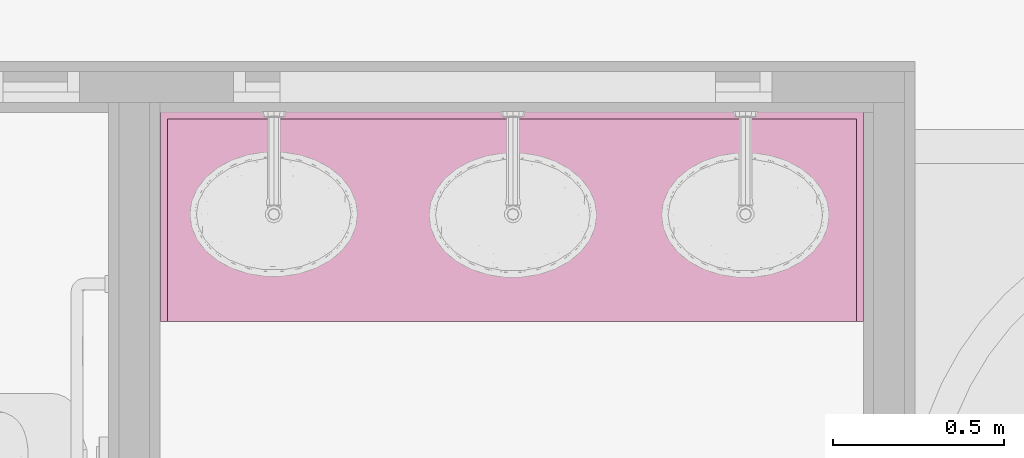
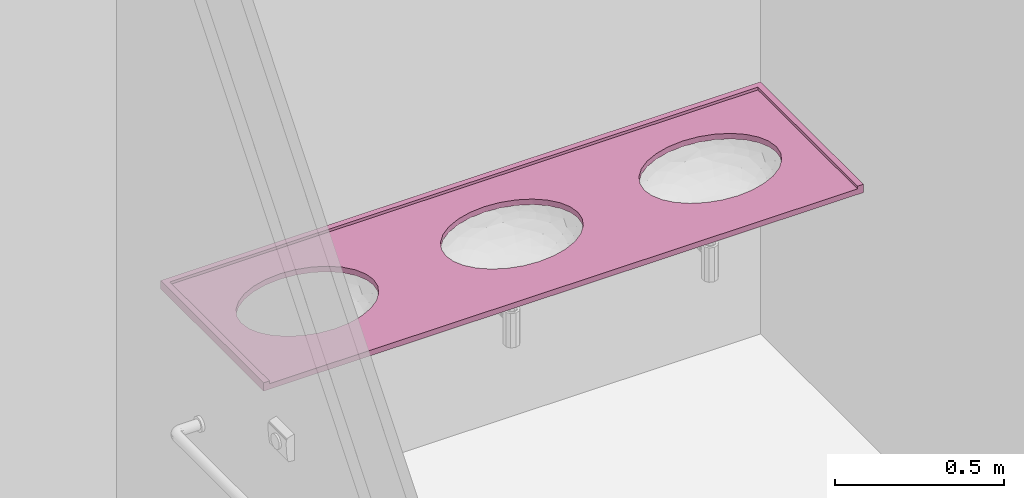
# One storey, part 142 of 155: 1 furnishing.
"""IFC2X3 building model written with IfcOpenShell, lengths in metres."""

from ifc_helpers import new_model, entity, si_unit, converted_unit, derived_unit, direction, frame, frame_2d, origin, origin_2d_with_axis, place, context, subcontext, project, spatial, polyline, rectangle, outline, extrude, source, transform, mapped, type_object, type_shapes, element, save


model = new_model("IFC2X3")

# Units and contexts
model_context = context("Model", 3, precision=1e-05, world=origin(), true_north=direction((6.12303176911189e-17, 1.0)))
body_context = subcontext(model_context, "Body", "Model", "MODEL_VIEW")
ifc_project = project(units=[si_unit("LENGTHUNIT", "METRE"), si_unit("AREAUNIT", "SQUARE_METRE"), si_unit("VOLUMEUNIT", "CUBIC_METRE"), converted_unit("PLANEANGLEUNIT", "DEGREE", entity("IfcRatioMeasure", 0.0174532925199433), si_unit("PLANEANGLEUNIT", "RADIAN"), dimensions=[0, 0, 0, 0, 0, 0, 0]), si_unit("MASSUNIT", "GRAM", prefix="KILO"), derived_unit("MASSDENSITYUNIT", [(si_unit("MASSUNIT", "GRAM", prefix="KILO"), 1), (si_unit("LENGTHUNIT", "METRE"), -3)]), si_unit("TIMEUNIT", "SECOND"), si_unit("FREQUENCYUNIT", "HERTZ"), si_unit("THERMODYNAMICTEMPERATUREUNIT", "DEGREE_CELSIUS"), derived_unit("THERMALTRANSMITTANCEUNIT", [(si_unit("MASSUNIT", "GRAM", prefix="KILO"), 1), (si_unit("THERMODYNAMICTEMPERATUREUNIT", "KELVIN"), -1), (si_unit("TIMEUNIT", "SECOND"), -3)]), derived_unit("VOLUMETRICFLOWRATEUNIT", [(si_unit("LENGTHUNIT", "METRE"), 3), (si_unit("TIMEUNIT", "SECOND"), -1)]), si_unit("ELECTRICCURRENTUNIT", "AMPERE"), si_unit("ELECTRICVOLTAGEUNIT", "VOLT"), si_unit("POWERUNIT", "WATT"), si_unit("FORCEUNIT", "NEWTON", prefix="KILO"), si_unit("ILLUMINANCEUNIT", "LUX"), si_unit("LUMINOUSFLUXUNIT", "LUMEN"), si_unit("LUMINOUSINTENSITYUNIT", "CANDELA"), derived_unit("USERDEFINED", [(si_unit("MASSUNIT", "GRAM", prefix="KILO"), -1), (si_unit("LENGTHUNIT", "METRE"), -2), (si_unit("TIMEUNIT", "SECOND"), 3), (si_unit("LUMINOUSFLUXUNIT", "LUMEN"), 1)]), derived_unit("LINEARVELOCITYUNIT", [(si_unit("LENGTHUNIT", "METRE"), 1), (si_unit("TIMEUNIT", "SECOND"), -1)]), si_unit("PRESSUREUNIT", "PASCAL"), derived_unit("USERDEFINED", [(si_unit("LENGTHUNIT", "METRE"), -2), (si_unit("MASSUNIT", "GRAM", prefix="KILO"), 1), (si_unit("TIMEUNIT", "SECOND"), -2)])], contexts=[model_context])

# Site, building, storey, space
site_placement = place(None, frame((26.9889013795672, -17.5624287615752, 0.0)))
site = spatial("IfcSite", under=ifc_project, at=site_placement, Name="Default", CompositionType="ELEMENT")
building_placement = place(site_placement, origin())
building = spatial("IfcBuilding", under=site, at=building_placement, Name="C. C. L. Monsenhor Antônio Sampaio", CompositionType="ELEMENT")
storey_placement = place(building_placement, frame((0.0, 0.0, 1.19999999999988)))
storey = spatial("IfcBuildingStorey", under=building, at=storey_placement, Name="Nível 1.2", CompositionType="ELEMENT", Elevation=1.19999999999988)
space_placement = place(storey_placement, origin())
space = spatial("IfcSpace", under=storey, at=space_placement, Name="92", CompositionType="ELEMENT", InteriorOrExteriorSpace="INTERNAL")

# Furnishing
furniture_type = type_object("IfcFurnitureType", Name="Bancada_L_60x265")
shared_shape = source(origin(), body_context, "Body", "SweptSolid", [
    extrude(outline(polyline([(-1.02499731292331, -0.305000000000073), (1.02499731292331, -0.305000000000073), (1.02499731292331, 0.305000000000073), (-1.02499731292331, 0.305000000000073), (-1.02499731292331, -0.305000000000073)]), holes=[polyline([(0.46954209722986, -0.00749999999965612), (0.474836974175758, 0.027440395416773), (0.490684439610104, 0.061148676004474), (0.51680879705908, 0.0921070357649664), (0.552244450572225, 0.118499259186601), (0.59531196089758, 0.138658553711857), (0.643764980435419, 0.151290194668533), (0.69499731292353, 0.155591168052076), (0.746229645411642, 0.151290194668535), (0.794682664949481, 0.138658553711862), (0.837750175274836, 0.118499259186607), (0.873185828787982, 0.0921070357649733), (0.899310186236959, 0.0611486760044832), (0.915157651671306, 0.027440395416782), (0.920452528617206, -0.00749999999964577), (0.915157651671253, -0.04244039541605), (0.899310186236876, -0.0761486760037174), (0.873185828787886, -0.107107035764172), (0.837750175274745, -0.133499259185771), (0.794682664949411, -0.153658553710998), (0.746229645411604, -0.166290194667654), (0.694997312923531, -0.170591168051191), (0.643764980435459, -0.166290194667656), (0.595311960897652, -0.153658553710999), (0.552244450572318, -0.133499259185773), (0.516808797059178, -0.107107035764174), (0.490684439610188, -0.0761486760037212), (0.474836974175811, -0.0424403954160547), (0.46954209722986, -0.00749999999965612)]), polyline([(0.222952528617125, -0.00491835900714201), (0.217657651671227, -0.0398587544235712), (0.20181018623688, -0.0735670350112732), (0.175685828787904, -0.104525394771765), (0.140250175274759, -0.130917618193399), (0.0971826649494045, -0.151076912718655), (0.0487296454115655, -0.163708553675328), (-0.00250268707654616, -0.168009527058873), (-0.053735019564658, -0.163708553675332), (-0.102188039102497, -0.151076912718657), (-0.145255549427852, -0.130917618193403), (-0.180691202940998, -0.104525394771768), (-0.206815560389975, -0.0735670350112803), (-0.222663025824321, -0.0398587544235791), (-0.227957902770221, -0.0049183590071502), (-0.222663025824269, 0.030022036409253), (-0.206815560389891, 0.0637303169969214), (-0.180691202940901, 0.0946886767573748), (-0.145255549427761, 0.121080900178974), (-0.102188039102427, 0.141240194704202), (-0.0537350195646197, 0.153871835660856), (-0.00250268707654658, 0.158172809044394), (0.0487296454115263, 0.153871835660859), (0.0971826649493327, 0.141240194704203), (0.140250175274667, 0.121080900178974), (0.175685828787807, 0.0946886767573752), (0.201810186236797, 0.0637303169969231), (0.217657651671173, 0.0300220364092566), (0.222952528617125, -0.00491835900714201)]), polyline([(-0.455138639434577, -0.00491835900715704), (-0.460433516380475, -0.0398587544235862), (-0.476280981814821, -0.0735670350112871), (-0.502405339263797, -0.104525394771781), (-0.537840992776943, -0.130917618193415), (-0.580908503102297, -0.151076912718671), (-0.629361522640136, -0.163708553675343), (-0.680593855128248, -0.168009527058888), (-0.731826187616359, -0.163708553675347), (-0.780279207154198, -0.151076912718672), (-0.823346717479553, -0.130917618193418), (-0.858782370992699, -0.104525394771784), (-0.884906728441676, -0.0735670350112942), (-0.900754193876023, -0.0398587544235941), (-0.906049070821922, -0.00491835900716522), (-0.90075419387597, 0.030022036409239), (-0.884906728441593, 0.0637303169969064), (-0.858782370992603, 0.0946886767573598), (-0.823346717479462, 0.12108090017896), (-0.780279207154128, 0.141240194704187), (-0.731826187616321, 0.153871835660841), (-0.680593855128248, 0.158172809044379), (-0.629361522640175, 0.153871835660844), (-0.580908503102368, 0.141240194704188), (-0.537840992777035, 0.121080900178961), (-0.502405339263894, 0.0946886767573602), (-0.476280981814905, 0.0637303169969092), (-0.460433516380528, 0.0300220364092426), (-0.455138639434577, -0.00491835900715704)])]), frame((-1.44554960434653, -8.90806634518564, 2.07999999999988), z_axis=(0.0, 0.0, 1.0), x_axis=(-1.0, 0.0, 0.0)), (0.0, 0.0, 1.0), 0.0200000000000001),
    extrude(rectangle(XDim=0.0199999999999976, YDim=2.04999462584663, at=origin_2d_with_axis()), frame((-1.44554960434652, -8.61306634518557, 2.09999999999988), z_axis=(0.0, 0.0, 1.0), x_axis=(0.0, 1.0, 0.0)), (0.0, 0.0, 1.0), 0.00999999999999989),
    extrude(rectangle(XDim=0.0199999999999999, YDim=0.590000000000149, at=frame_2d((3.38271077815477e-17, 0.0), x_axis=(1.0, 0.0))), frame((-0.43055229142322, -8.91806634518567, 2.09999999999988)), (0.0, 0.0, 1.0), 0.00999999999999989),
    extrude(rectangle(XDim=0.0200000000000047, YDim=0.590000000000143, at=frame_2d((-5.41233724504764e-16, -5.27355936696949e-16), x_axis=(1.0, 0.0))), frame((-2.46054691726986, -8.91806634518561, 2.09999999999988)), (0.0, 0.0, 1.0), 0.00999999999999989),
])
type_shapes(furniture_type, [shared_shape])
furnishing_placement = place(space_placement, frame((0.0, 0.0, -1.19999999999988)))
element("IfcFurnishingElement", 1, at=furnishing_placement, inside=space, type_object=furniture_type, Name="Bancada1:Bancada_L_60x265", ObjectType="Bancada_L_60x265", context=body_context, shape_type="MappedRepresentation", body=[
    mapped(shared_shape, transform((0.0, 0.0, 0.0), scale=1.0)),
])

save(model, "model.ifc")
